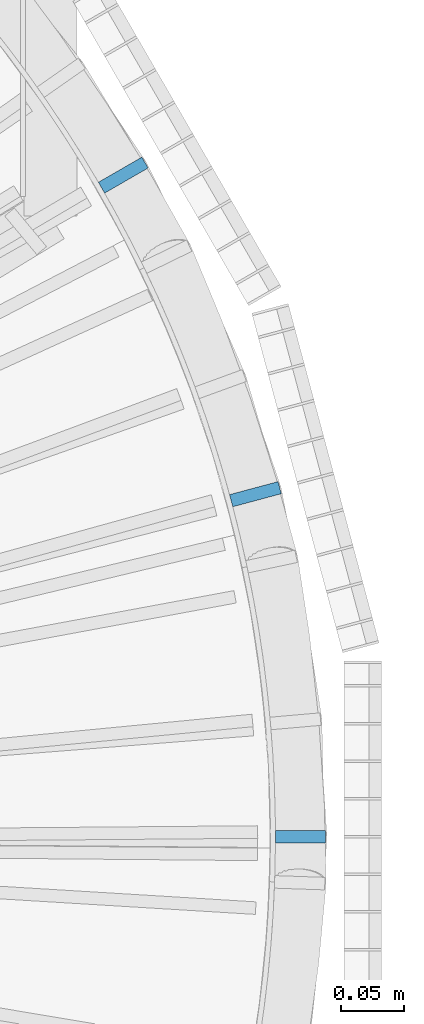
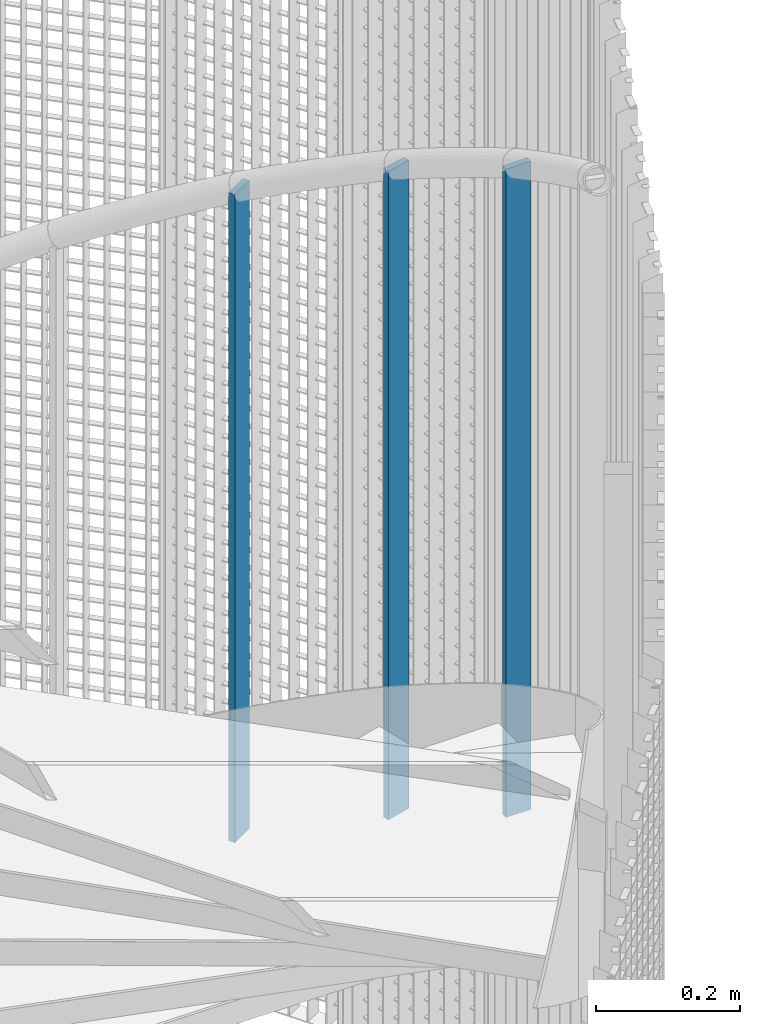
# One storey, part 70 of 1148: 3 columns, 3 elements without a shape of their own.
"""IFC2X3 building model written with IfcOpenShell, lengths in millimetres."""

from ifc_helpers import new_model, si_unit, frame, origin_with_axes, origin_2d_with_axis, place, context, subcontext, project, spatial, rectangle, extrude, material, type_object, element, aggregate, save


model = new_model("IFC2X3")

# Units and contexts
model_context = context("Model", 3, precision=1e-05, world=origin_with_axes())
body_context = subcontext(model_context, "Body", "Model", "MODEL_VIEW")
ifc_project = project(units=[si_unit("LENGTHUNIT", "METRE", prefix="MILLI"), si_unit("AREAUNIT", "SQUARE_METRE"), si_unit("VOLUMEUNIT", "CUBIC_METRE"), si_unit("MASSUNIT", "GRAM", prefix="KILO"), si_unit("TIMEUNIT", "SECOND"), si_unit("PLANEANGLEUNIT", "RADIAN"), si_unit("SOLIDANGLEUNIT", "STERADIAN"), si_unit("THERMODYNAMICTEMPERATUREUNIT", "DEGREE_CELSIUS"), si_unit("LUMINOUSINTENSITYUNIT", "LUMEN")], contexts=[model_context])

# Site, building, storey
site_placement = place(None, origin_with_axes())
site = spatial("IfcSite", under=ifc_project, at=site_placement, Name="Undefined", CompositionType="ELEMENT")
building_placement = place(site_placement, origin_with_axes())
building = spatial("IfcBuilding", under=site, at=building_placement, Name="Undefined", CompositionType="ELEMENT")
storey_placement = place(building_placement, origin_with_axes())
storey = spatial("IfcBuildingStorey", under=building, at=storey_placement, Name="Undefined", CompositionType="ELEMENT", Elevation=0.0)

# Assembly, column
assembly_1_placement = place(storey_placement, origin_with_axes())
assembly_1 = element("IfcElementAssembly", 1, at=assembly_1_placement, inside=storey, Name="MONTANT", AssemblyPlace="NOTDEFINED", PredefinedType="NOTDEFINED")
ifc_material = material(Name="STEEL/S235JR")
column_type = type_object("IfcColumnType", Name="PL10*40", PredefinedType="NOTDEFINED")
column_1_placement = place(assembly_1_placement, frame((22512.7907755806, 526.999999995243, 309.04), z_axis=(0.0, 0.0, 1.0), x_axis=(-0.866025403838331, -0.499999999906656, 0.0)))
column_1 = element("IfcColumn", 2, at=column_1_placement, type_object=column_type, material=ifc_material, Name="MONTANT", context=body_context, shape_type="SweptSolid", body=[
    extrude(rectangle(XDim=10.0, YDim=40.0, at=origin_2d_with_axis()), frame((0.0, 0.0, 1100.0), z_axis=(0.0, 0.0, -1.0), x_axis=(0.0, 1.0, 0.0)), (0.0, 0.0, 1.0), 1100.0),
])
aggregate(assembly_1, [column_1])

assembly_2_placement = place(storey_placement, origin_with_axes())
assembly_2 = element("IfcElementAssembly", 3, at=assembly_2_placement, inside=storey, Name="MONTANT", AssemblyPlace="NOTDEFINED", PredefinedType="NOTDEFINED")
column_2_placement = place(assembly_2_placement, frame((22618.0858209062, 272.795273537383, 463.56), z_axis=(0.0, 0.0, 1.0), x_axis=(-0.965925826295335, -0.258819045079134, 0.0)))
column_2 = element("IfcColumn", 4, at=column_2_placement, type_object=column_type, material=ifc_material, Name="MONTANT", context=body_context, shape_type="SweptSolid", body=[
    extrude(rectangle(XDim=10.0, YDim=40.0, at=origin_2d_with_axis()), frame((0.0, 0.0, 1100.0), z_axis=(0.0, 0.0, -1.0), x_axis=(0.0, 1.0, 0.0)), (0.0, 0.0, 1.0), 1100.0),
])
aggregate(assembly_2, [column_2])

assembly_3_placement = place(storey_placement, origin_with_axes())
assembly_3 = element("IfcElementAssembly", 5, at=assembly_3_placement, inside=storey, Name="MONTANT", AssemblyPlace="NOTDEFINED", PredefinedType="NOTDEFINED")
column_3_placement = place(assembly_3_placement, frame((22654.0000000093, 2.04636307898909e-12, 618.08), z_axis=(0.0, 0.0, 1.0), x_axis=(-1.0, 0.0, 0.0)))
column_3 = element("IfcColumn", 6, at=column_3_placement, type_object=column_type, material=ifc_material, Name="MONTANT", context=body_context, shape_type="SweptSolid", body=[
    extrude(rectangle(XDim=10.0, YDim=40.0, at=origin_2d_with_axis()), frame((0.0, 0.0, 1100.0), z_axis=(0.0, 0.0, -1.0), x_axis=(0.0, 1.0, 0.0)), (0.0, 0.0, 1.0), 1100.0),
])
aggregate(assembly_3, [column_3])

save(model, "model.ifc")
